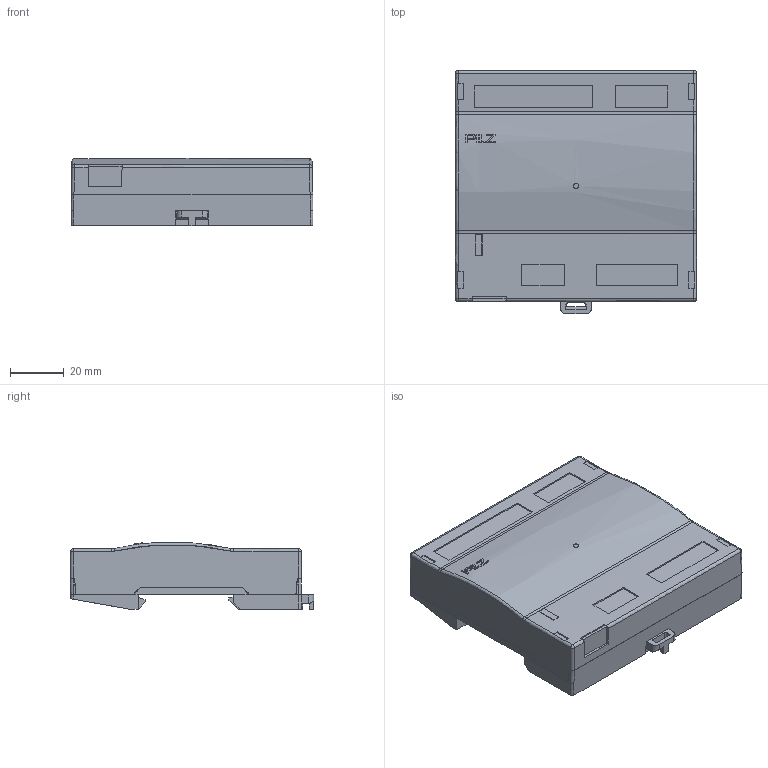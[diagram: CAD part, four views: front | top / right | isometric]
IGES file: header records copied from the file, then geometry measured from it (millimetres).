
Start section:  PTC IGES file: 2027693
Global section: file name: 2027693; native system: Creo Parametric by Parametric Technology Corporation; preprocessor: 2015110; author: smayer; organization: Unknown; date: 20190204.064422; units: millimetre
Bounding box: 90 x 90.5 x 25.02 mm (x, y, z)
Surface area: 24610.7 mm2 (no closed solid volume)
Topology: 0 solids, 0 shells, 262 faces, 1434 edges, 1434 vertices
Faces by surface type: bspline 221, revolution 41
